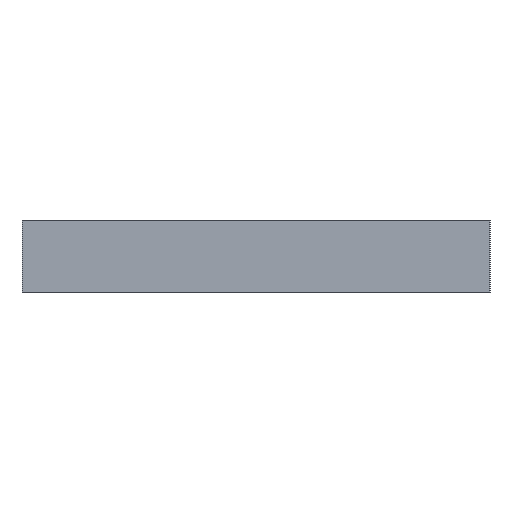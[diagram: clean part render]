
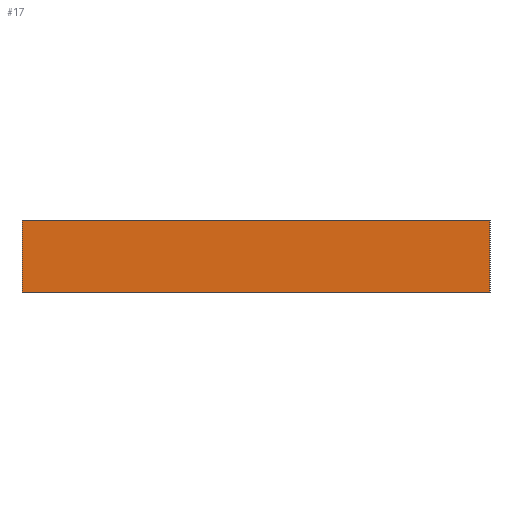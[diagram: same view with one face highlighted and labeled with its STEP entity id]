
A CAD part, left-side view. The second image highlights one B-rep face of the part: STEP entity #17.
In plain terms, the highlighted planar face has unit normal (-1, 0, 0).
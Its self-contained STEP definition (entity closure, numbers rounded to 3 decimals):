
#17 = ADVANCED_FACE('',(#18),#32,.F.);
#18 = FACE_BOUND('',#19,.F.);
#19 = EDGE_LOOP('',(#20,#55,#83,#111));
#20 = ORIENTED_EDGE('',*,*,#21,.F.);
#21 = EDGE_CURVE('',#22,#24,#26,.T.);
#22 = VERTEX_POINT('',#23);
#23 = CARTESIAN_POINT('',(0.,0.,0.));
#24 = VERTEX_POINT('',#25);
#25 = CARTESIAN_POINT('',(0.,0.,8.));
#26 = SURFACE_CURVE('',#27,(#31,#43),.PCURVE_S1.);
#27 = LINE('',#28,#29);
#28 = CARTESIAN_POINT('',(0.,0.,0.));
#29 = VECTOR('',#30,1.);
#30 = DIRECTION('',(0.,0.,1.));
#31 = PCURVE('',#32,#37);
#32 = PLANE('',#33);
#33 = AXIS2_PLACEMENT_3D('',#34,#35,#36);
#34 = CARTESIAN_POINT('',(0.,0.,0.));
#35 = DIRECTION('',(1.,0.,0.));
#36 = DIRECTION('',(0.,0.,1.));
#37 = DEFINITIONAL_REPRESENTATION('',(#38),#42);
#38 = LINE('',#39,#40);
#39 = CARTESIAN_POINT('',(0.,0.));
#40 = VECTOR('',#41,1.);
#41 = DIRECTION('',(1.,0.));
#42 = ( GEOMETRIC_REPRESENTATION_CONTEXT(2) 
PARAMETRIC_REPRESENTATION_CONTEXT() REPRESENTATION_CONTEXT('2D SPACE',''
  ) );
#43 = PCURVE('',#44,#49);
#44 = PLANE('',#45);
#45 = AXIS2_PLACEMENT_3D('',#46,#47,#48);
#46 = CARTESIAN_POINT('',(0.,0.,0.));
#47 = DIRECTION('',(0.,1.,0.));
#48 = DIRECTION('',(0.,0.,1.));
#49 = DEFINITIONAL_REPRESENTATION('',(#50),#54);
#50 = LINE('',#51,#52);
#51 = CARTESIAN_POINT('',(0.,0.));
#52 = VECTOR('',#53,1.);
#53 = DIRECTION('',(1.,0.));
#54 = ( GEOMETRIC_REPRESENTATION_CONTEXT(2) 
PARAMETRIC_REPRESENTATION_CONTEXT() REPRESENTATION_CONTEXT('2D SPACE',''
  ) );
#55 = ORIENTED_EDGE('',*,*,#56,.T.);
#56 = EDGE_CURVE('',#22,#57,#59,.T.);
#57 = VERTEX_POINT('',#58);
#58 = CARTESIAN_POINT('',(0.,52.,0.));
#59 = SURFACE_CURVE('',#60,(#64,#71),.PCURVE_S1.);
#60 = LINE('',#61,#62);
#61 = CARTESIAN_POINT('',(0.,0.,0.));
#62 = VECTOR('',#63,1.);
#63 = DIRECTION('',(0.,1.,0.));
#64 = PCURVE('',#32,#65);
#65 = DEFINITIONAL_REPRESENTATION('',(#66),#70);
#66 = LINE('',#67,#68);
#67 = CARTESIAN_POINT('',(0.,0.));
#68 = VECTOR('',#69,1.);
#69 = DIRECTION('',(0.,-1.));
#70 = ( GEOMETRIC_REPRESENTATION_CONTEXT(2) 
PARAMETRIC_REPRESENTATION_CONTEXT() REPRESENTATION_CONTEXT('2D SPACE',''
  ) );
#71 = PCURVE('',#72,#77);
#72 = PLANE('',#73);
#73 = AXIS2_PLACEMENT_3D('',#74,#75,#76);
#74 = CARTESIAN_POINT('',(0.,0.,0.));
#75 = DIRECTION('',(0.,0.,1.));
#76 = DIRECTION('',(1.,0.,0.));
#77 = DEFINITIONAL_REPRESENTATION('',(#78),#82);
#78 = LINE('',#79,#80);
#79 = CARTESIAN_POINT('',(0.,0.));
#80 = VECTOR('',#81,1.);
#81 = DIRECTION('',(0.,1.));
#82 = ( GEOMETRIC_REPRESENTATION_CONTEXT(2) 
PARAMETRIC_REPRESENTATION_CONTEXT() REPRESENTATION_CONTEXT('2D SPACE',''
  ) );
#83 = ORIENTED_EDGE('',*,*,#84,.T.);
#84 = EDGE_CURVE('',#57,#85,#87,.T.);
#85 = VERTEX_POINT('',#86);
#86 = CARTESIAN_POINT('',(0.,52.,8.));
#87 = SURFACE_CURVE('',#88,(#92,#99),.PCURVE_S1.);
#88 = LINE('',#89,#90);
#89 = CARTESIAN_POINT('',(0.,52.,0.));
#90 = VECTOR('',#91,1.);
#91 = DIRECTION('',(0.,0.,1.));
#92 = PCURVE('',#32,#93);
#93 = DEFINITIONAL_REPRESENTATION('',(#94),#98);
#94 = LINE('',#95,#96);
#95 = CARTESIAN_POINT('',(0.,-52.));
#96 = VECTOR('',#97,1.);
#97 = DIRECTION('',(1.,0.));
#98 = ( GEOMETRIC_REPRESENTATION_CONTEXT(2) 
PARAMETRIC_REPRESENTATION_CONTEXT() REPRESENTATION_CONTEXT('2D SPACE',''
  ) );
#99 = PCURVE('',#100,#105);
#100 = PLANE('',#101);
#101 = AXIS2_PLACEMENT_3D('',#102,#103,#104);
#102 = CARTESIAN_POINT('',(0.,52.,0.));
#103 = DIRECTION('',(0.,1.,0.));
#104 = DIRECTION('',(0.,0.,1.));
#105 = DEFINITIONAL_REPRESENTATION('',(#106),#110);
#106 = LINE('',#107,#108);
#107 = CARTESIAN_POINT('',(0.,0.));
#108 = VECTOR('',#109,1.);
#109 = DIRECTION('',(1.,0.));
#110 = ( GEOMETRIC_REPRESENTATION_CONTEXT(2) 
PARAMETRIC_REPRESENTATION_CONTEXT() REPRESENTATION_CONTEXT('2D SPACE',''
  ) );
#111 = ORIENTED_EDGE('',*,*,#112,.F.);
#112 = EDGE_CURVE('',#24,#85,#113,.T.);
#113 = SURFACE_CURVE('',#114,(#118,#125),.PCURVE_S1.);
#114 = LINE('',#115,#116);
#115 = CARTESIAN_POINT('',(0.,0.,8.));
#116 = VECTOR('',#117,1.);
#117 = DIRECTION('',(0.,1.,0.));
#118 = PCURVE('',#32,#119);
#119 = DEFINITIONAL_REPRESENTATION('',(#120),#124);
#120 = LINE('',#121,#122);
#121 = CARTESIAN_POINT('',(8.,0.));
#122 = VECTOR('',#123,1.);
#123 = DIRECTION('',(0.,-1.));
#124 = ( GEOMETRIC_REPRESENTATION_CONTEXT(2) 
PARAMETRIC_REPRESENTATION_CONTEXT() REPRESENTATION_CONTEXT('2D SPACE',''
  ) );
#125 = PCURVE('',#126,#131);
#126 = PLANE('',#127);
#127 = AXIS2_PLACEMENT_3D('',#128,#129,#130);
#128 = CARTESIAN_POINT('',(0.,0.,8.));
#129 = DIRECTION('',(0.,0.,1.));
#130 = DIRECTION('',(1.,0.,0.));
#131 = DEFINITIONAL_REPRESENTATION('',(#132),#136);
#132 = LINE('',#133,#134);
#133 = CARTESIAN_POINT('',(0.,0.));
#134 = VECTOR('',#135,1.);
#135 = DIRECTION('',(0.,1.));
#136 = ( GEOMETRIC_REPRESENTATION_CONTEXT(2) 
PARAMETRIC_REPRESENTATION_CONTEXT() REPRESENTATION_CONTEXT('2D SPACE',''
  ) );
